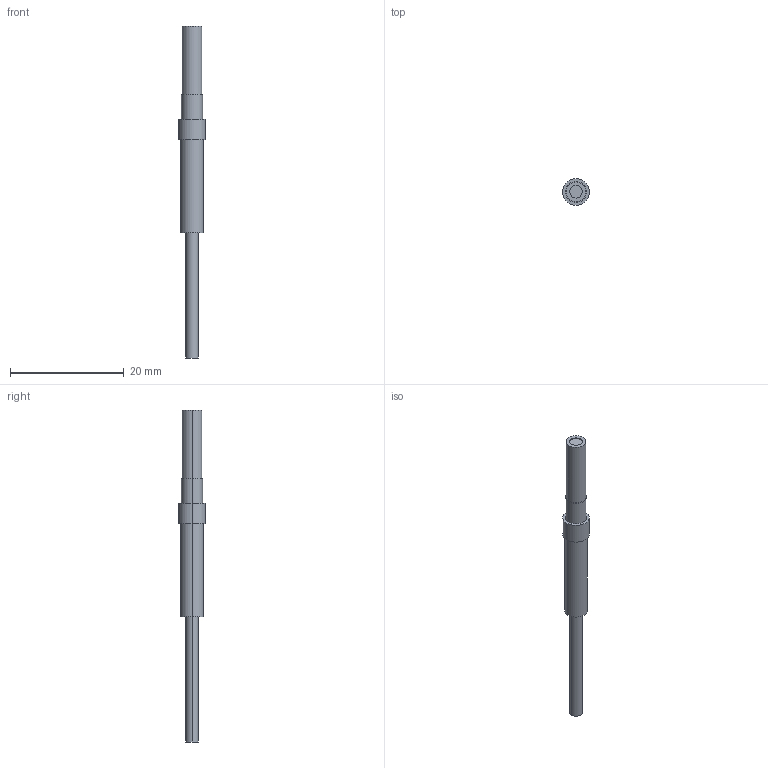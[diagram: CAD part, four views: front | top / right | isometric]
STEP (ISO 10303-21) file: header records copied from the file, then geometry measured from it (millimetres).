
FILE_DESCRIPTION (( 'STEP AP203' ), '1' );
FILE_NAME ('FT-K8.STEP', '2005-09-08T01:57:52', ( '' ), ( '' ), 'SwSTEP 2.0', 'SolidWorks 2004073', '' );
FILE_SCHEMA (( 'CONFIG_CONTROL_DESIGN' ));
Length unit declared in the file: millimetre
Products named in the file (1): FT-K8
Bounding box: 4.7 x 4.7 x 58.4 mm (x, y, z)
Volume: 514.6 mm3; surface area: 637.4 mm2
Topology: 2 solids, 2 shells, 20 faces, 36 edges, 24 vertices
Faces by surface type: cylinder 12, plane 8
Entity records: 579 total; most frequent: DIRECTION 102, CARTESIAN_POINT 81, ORIENTED_EDGE 72, AXIS2_PLACEMENT_3D 45, EDGE_CURVE 36, EDGE_LOOP 24, VERTEX_POINT 24, CIRCLE 24
